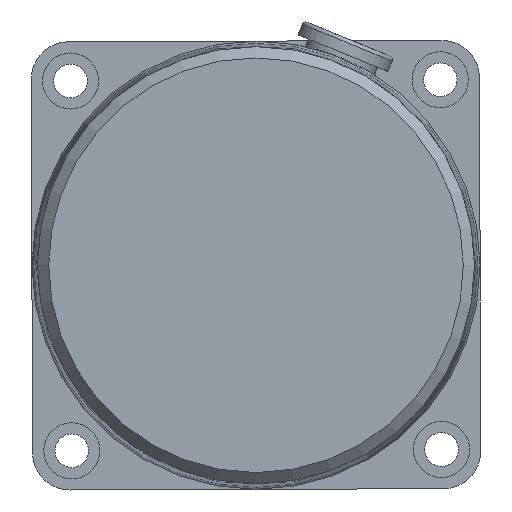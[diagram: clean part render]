
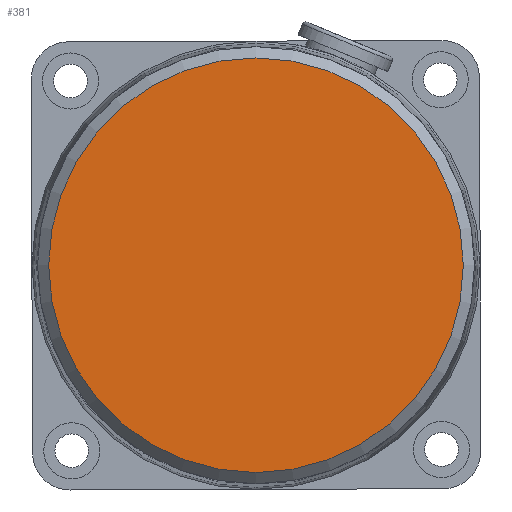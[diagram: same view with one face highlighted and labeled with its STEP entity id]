
A CAD part, left-side view. The second image highlights one B-rep face of the part: STEP entity #381.
In plain terms, the highlighted planar face has unit normal (-1, 0, 0).
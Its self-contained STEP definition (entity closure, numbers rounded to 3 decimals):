
#365=CARTESIAN_POINT('',(0.0,13.875,0.0));
#366=DIRECTION('',(-1.0,0.0,0.0));
#367=DIRECTION('',(0.0,0.0,1.0));
#368=AXIS2_PLACEMENT_3D('',#365,#366,#367);
#369=PLANE('',#368);
#370=CARTESIAN_POINT('',(0.0,27.75,0.0));
#371=VERTEX_POINT('',#370);
#372=CARTESIAN_POINT('',(0.0,0.0,0.0));
#373=DIRECTION('',(1.0,0.0,0.0));
#374=DIRECTION('',(0.0,1.0,0.0));
#375=AXIS2_PLACEMENT_3D('',#372,#373,#374);
#376=CIRCLE('',#375,27.75);
#377=EDGE_CURVE('',#371,#371,#376,.T.);
#378=ORIENTED_EDGE('',*,*,#377,.F.);
#379=EDGE_LOOP('',(#378));
#380=FACE_OUTER_BOUND('',#379,.T.);
#381=ADVANCED_FACE('',(#380),#369,.T.);
